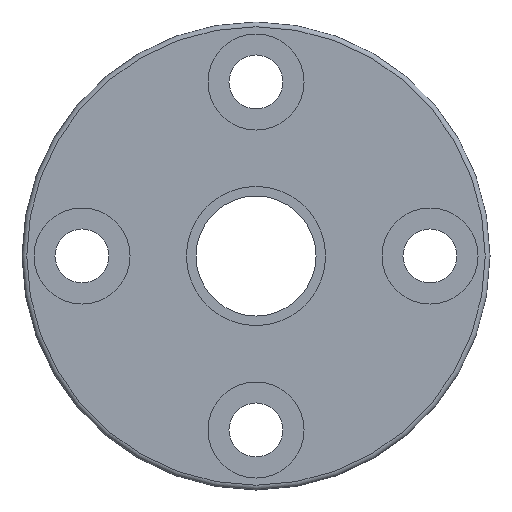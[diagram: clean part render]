
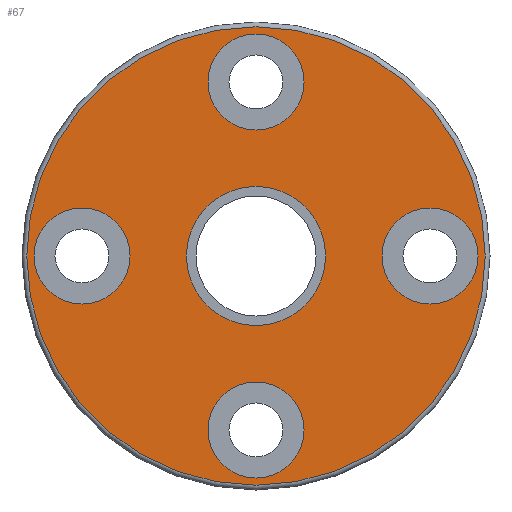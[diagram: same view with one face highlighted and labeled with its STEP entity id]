
A CAD part, left-side view. The second image highlights one B-rep face of the part: STEP entity #67.
In plain terms, the highlighted planar face has unit normal (-1, 0, 0).
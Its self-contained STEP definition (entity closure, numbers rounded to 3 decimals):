
#67 = ADVANCED_FACE( '', ( #154, #155, #156, #157, #158, #159 ), #160, .T. );
#154 = FACE_BOUND( '', #277, .T. );
#155 = FACE_BOUND( '', #278, .T. );
#156 = FACE_BOUND( '', #279, .T. );
#157 = FACE_BOUND( '', #280, .T. );
#158 = FACE_BOUND( '', #281, .T. );
#159 = FACE_OUTER_BOUND( '', #282, .T. );
#160 = PLANE( '', #283 );
#277 = EDGE_LOOP( '', ( #410 ) );
#278 = EDGE_LOOP( '', ( #411 ) );
#279 = EDGE_LOOP( '', ( #412 ) );
#280 = EDGE_LOOP( '', ( #413 ) );
#281 = EDGE_LOOP( '', ( #414 ) );
#282 = EDGE_LOOP( '', ( #415 ) );
#283 = AXIS2_PLACEMENT_3D( '', #416, #417, #418 );
#410 = ORIENTED_EDGE( '', *, *, #554, .T. );
#411 = ORIENTED_EDGE( '', *, *, #555, .T. );
#412 = ORIENTED_EDGE( '', *, *, #544, .T. );
#413 = ORIENTED_EDGE( '', *, *, #556, .T. );
#414 = ORIENTED_EDGE( '', *, *, #557, .F. );
#415 = ORIENTED_EDGE( '', *, *, #558, .T. );
#416 = CARTESIAN_POINT( '', ( 0., 12.55, 0. ) );
#417 = DIRECTION( '', ( -1., 0., 0. ) );
#418 = DIRECTION( '', ( 0., 1., 0. ) );
#544 = EDGE_CURVE( '', #610, #610, #611, .T. );
#554 = EDGE_CURVE( '', #626, #626, #627, .T. );
#555 = EDGE_CURVE( '', #628, #628, #629, .T. );
#556 = EDGE_CURVE( '', #630, #630, #631, .T. );
#557 = EDGE_CURVE( '', #632, #632, #633, .T. );
#558 = EDGE_CURVE( '', #634, #634, #635, .T. );
#610 = VERTEX_POINT( '', #699 );
#611 = CIRCLE( '', #700, 4. );
#626 = VERTEX_POINT( '', #715 );
#627 = CIRCLE( '', #716, 4. );
#628 = VERTEX_POINT( '', #717 );
#629 = CIRCLE( '', #718, 4. );
#630 = VERTEX_POINT( '', #719 );
#631 = CIRCLE( '', #720, 4. );
#632 = VERTEX_POINT( '', #721 );
#633 = CIRCLE( '', #722, 5.8 );
#634 = VERTEX_POINT( '', #723 );
#635 = CIRCLE( '', #724, 19.1 );
#699 = CARTESIAN_POINT( '', ( 0., -18.5, 0. ) );
#700 = AXIS2_PLACEMENT_3D( '', #791, #792, #793 );
#715 = CARTESIAN_POINT( '', ( 0., 0., -18.5 ) );
#716 = AXIS2_PLACEMENT_3D( '', #809, #810, #811 );
#717 = CARTESIAN_POINT( '', ( 0., 0., 18.5 ) );
#718 = AXIS2_PLACEMENT_3D( '', #812, #813, #814 );
#719 = CARTESIAN_POINT( '', ( 0., 18.5, 0. ) );
#720 = AXIS2_PLACEMENT_3D( '', #815, #816, #817 );
#721 = CARTESIAN_POINT( '', ( 0., 5.8, 0. ) );
#722 = AXIS2_PLACEMENT_3D( '', #818, #819, #820 );
#723 = CARTESIAN_POINT( '', ( 0., 19.1, 0. ) );
#724 = AXIS2_PLACEMENT_3D( '', #821, #822, #823 );
#791 = CARTESIAN_POINT( '', ( 0., -14.5, 0. ) );
#792 = DIRECTION( '', ( 1., 0., 0. ) );
#793 = DIRECTION( '', ( 0., -1., 0. ) );
#809 = CARTESIAN_POINT( '', ( 0., 0., -14.5 ) );
#810 = DIRECTION( '', ( 1., 0., 0. ) );
#811 = DIRECTION( '', ( 0., 0., -1. ) );
#812 = CARTESIAN_POINT( '', ( 0., 0., 14.5 ) );
#813 = DIRECTION( '', ( 1., 0., 0. ) );
#814 = DIRECTION( '', ( 0., 0., 1. ) );
#815 = CARTESIAN_POINT( '', ( 0., 14.5, 0. ) );
#816 = DIRECTION( '', ( 1., 0., 0. ) );
#817 = DIRECTION( '', ( 0., 1., 0. ) );
#818 = CARTESIAN_POINT( '', ( 0., 0., 0. ) );
#819 = DIRECTION( '', ( -1., 0., 0. ) );
#820 = DIRECTION( '', ( 0., 1., 0. ) );
#821 = CARTESIAN_POINT( '', ( 0., 0., 0. ) );
#822 = DIRECTION( '', ( -1., 0., 0. ) );
#823 = DIRECTION( '', ( 0., 0., 1. ) );
